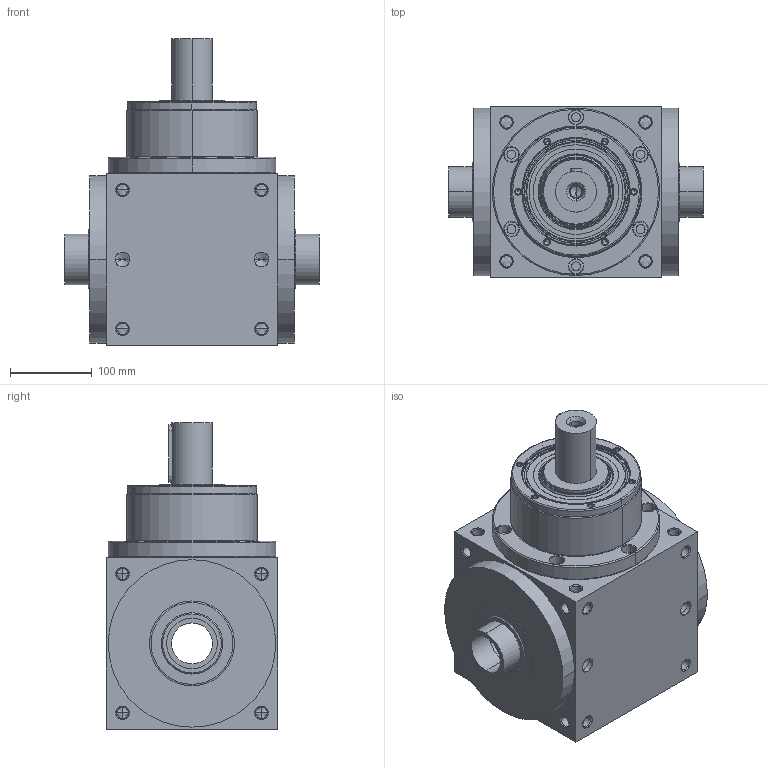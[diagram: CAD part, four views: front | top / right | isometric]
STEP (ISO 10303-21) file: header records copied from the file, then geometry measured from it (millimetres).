
FILE_DESCRIPTION((''),'2;1');
FILE_NAME('AT210C-1_ASM','2009-02-04T',('d00080'),(''),'PRO/ENGINEER BY PARAMETRIC TECHNOLOGY CORPORATION, 2006170','PRO/ENGINEER BY PARAMETRIC TECHNOLOGY CORPORATION, 2006170','');
FILE_SCHEMA(('CONFIG_CONTROL_DESIGN'));
Length unit declared in the file: millimetre
Products named in the file (6): AT210C-1; P1801800001; 22400071008; P1208800001; P0904801001; AT210C-1_ASM
Assembly tree (5 placements, depth 2):
  AT210C-1_ASM
    AT210C-1
    P1801800001
    22400071008
    P1208800001
    P0904801001
Bounding box: 312 x 210 x 375 mm (x, y, z)
Volume: 11355520.7 mm3; surface area: 635366.4 mm2
Topology: 6 solids, 38 shells, 610 faces, 1495 edges, 888 vertices
Faces by surface type: cylinder 270, cone 222, plane 78, torus 40
Entity records: 18518 total; most frequent: CARTESIAN_POINT 4040, DIRECTION 3265, ORIENTED_EDGE 2726, EDGE_CURVE 1427, AXIS2_PLACEMENT_3D 1377, VERTEX_POINT 888, CIRCLE 748, EDGE_LOOP 727
